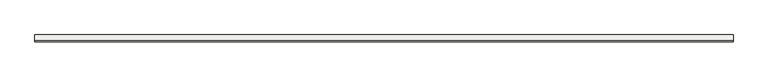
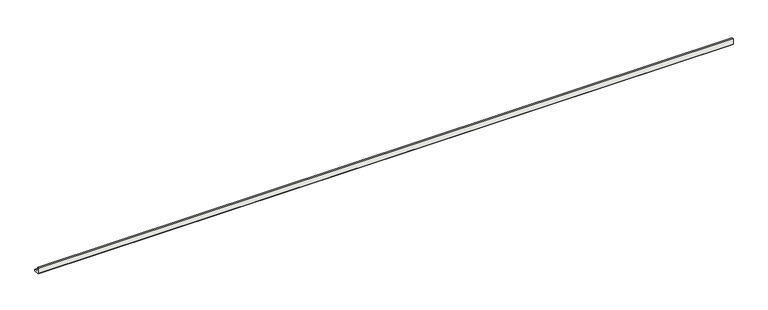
"""IFC4 building model written with IfcOpenShell, lengths in millimetres: slab geometry, ROSA GRES_188 : Pieza 188_Tresor_Bali_Anti-Slip."""

from ifc_helpers import new_model, si_unit, point, frame, frame_2d, origin, place, context, project, spatial, polyline, circle_curve, trimmed, segment, composite_curve, outline, extrude, source, transform, mapped, element, save


def slab_4a0eac2f(model_context):
    return source(origin(), model_context, "Body", "SweptSolid", [
        extrude(outline(composite_curve([segment(polyline([(0.0, 8.7114978), (0.0, 40.0), (9.9734114, 40.0)]), True, "CONTINUOUS"), segment(trimmed(circle_curve(frame_2d((39.9955547, 39.9955547)), 30.0221435), [point((9.9734114, 40.0))], [point((40.0, 9.9734114))], True, "CARTESIAN"), True, "CONTINUOUS"), segment(polyline([(40.0, 9.9734114), (40.0, 0.0), (8.7114978, 0.0), (0.0, 8.7114978)]), True, "CONTINUOUS")], self_intersect=False)), frame((0.0, 0.0, 0.0), z_axis=(1.0, 0.0, 0.0), x_axis=(0.0, 1.0, 0.0)), (0.0, 0.0, 1.0), 4001.0385022),
    ])


if __name__ == "__main__":
    model = new_model("IFC4")
    model_context = context("Model", 3, world=origin())
    ifc_project = project(units=[si_unit("LENGTHUNIT", "METRE", prefix="MILLI")], contexts=[model_context])
    site = spatial("IfcSite", under=ifc_project)
    building = spatial("IfcBuilding", under=site)
    placement = place(None, origin())
    slab_shape = slab_4a0eac2f(model_context)
    element("IfcSlab", 1, ObjectType="ROSA GRES_188 : Pieza 188_Tresor_Bali_Anti-Slip", at=placement, inside=building, context=model_context, shape_type="MappedRepresentation", body=[
        mapped(slab_shape, transform((0.0, 0.0, 0.0), x_axis=(1.0, 0.0, 0.0), y_axis=(0.0, 1.0, 0.0), z_axis=(0.0, 0.0, 1.0))),
    ])
    save(model, "model.ifc")
